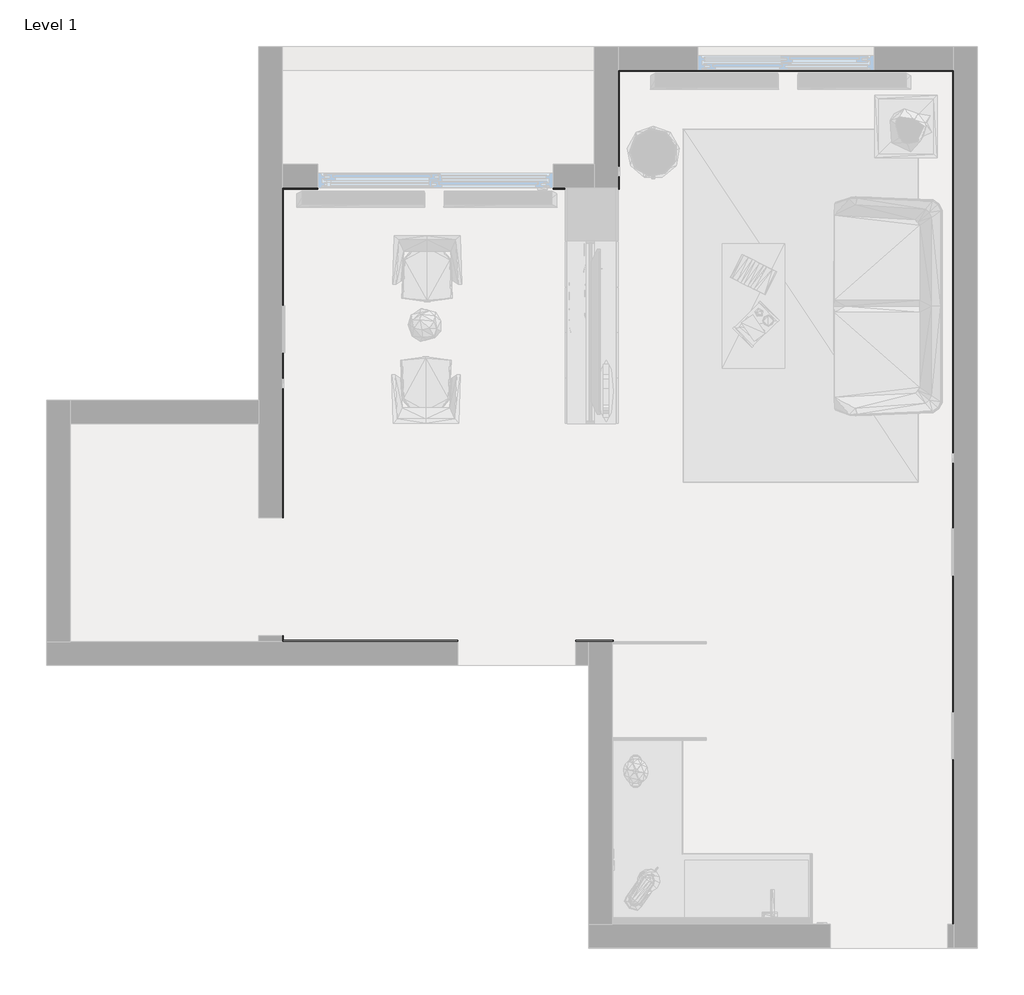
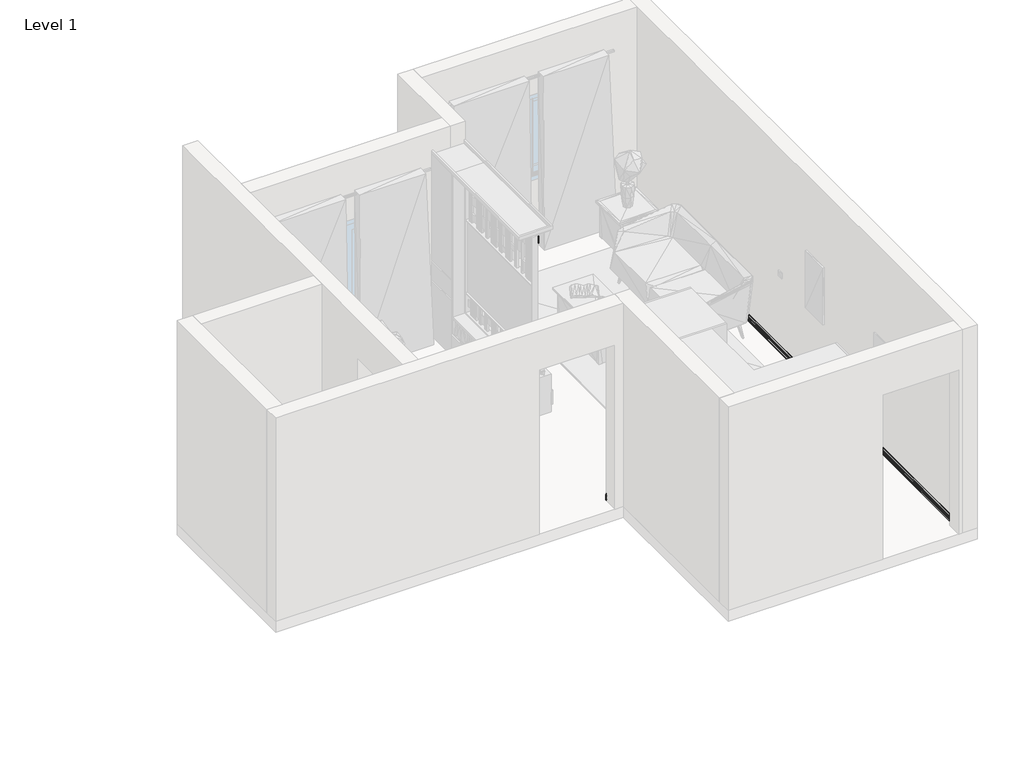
# One storey, part 3 of 4: 1 proxy.
"""IFC4 building model written with IfcOpenShell, lengths in millimetres."""

from ifc_helpers import new_model, si_unit, frame, origin, place, context, project, spatial, polyline, circle_curve, ellipse_curve, element, save
from ifc_brep_helpers import plane_surface, revolved_surface, advanced_brep

model = new_model("IFC4")

# Units and contexts
model_context = context("Model", 3, world=origin())
ifc_project = project(units=[si_unit("LENGTHUNIT", "METRE", prefix="MILLI")], contexts=[model_context])

# Site, building, storey
site = spatial("IfcSite", under=ifc_project)
building = spatial("IfcBuilding", under=site)
storey = spatial("IfcBuildingStorey", under=building, Name="Level 1", Elevation=0.0)

# Proxy
placement = place(None, origin())
element("IfcBuildingElementProxy", 1, Name="Cornice", ObjectType="Cornice", at=placement, inside=storey, context=model_context, shape_type="AdvancedBrep", body=[
    advanced_brep(
    [(-3792.1161882, -2231.0760728, 100.0), (-3792.1161882, -2231.0760728, 0.0), (-3782.1161882, -2231.0760728, 0.0), (-3782.1161882, -2231.0760728, 14.3765106), (-3782.1161882, -2231.0760728, 20.3628199), (-3782.1161882, -2231.0760728, 36.8765106), (-3782.1161882, -2231.0760728, 42.8628199), (-3782.1161882, -2231.0760728, 62.5015106), (-3782.1161882, -2231.0760728, 68.4878199), (-3782.1161882, -2231.0760728, 81.339746), (-3787.1161882, -2231.0760728, 100.0), (-3792.1161882, 568.9239272, 100.0), (-3787.1161882, 563.9239272, 100.0), (-3782.1161882, 558.9239272, 81.339746), (-3782.1161882, 558.9239272, 68.4878199), (-3782.1161882, 558.9239272, 62.5015106), (-3782.1161882, 558.9239272, 42.8628199), (-3782.1161882, 558.9239272, 36.8765106), (-3782.1161882, 558.9239272, 20.3628199), (-3782.1161882, 558.9239272, 14.3765106), (-3782.1161882, 558.9239272, 0.0), (-3792.1161882, 568.9239272, 0.0)],
    [
        (0, 1),
        (1, 2),
        (2, 3),
        (3, 4, circle_curve(frame((-3782.1161882, -2231.0760728, 17.3696652), z_axis=(0.0, 1.0, 0.0), x_axis=(1.0, 0.0, 0.0)), 2.9931546)),
        (4, 5),
        (5, 6, circle_curve(frame((-3782.1161882, -2231.0760728, 39.8696652), z_axis=(0.0, 1.0, 0.0), x_axis=(1.0, 0.0, 0.0)), 2.9931546)),
        (6, 7),
        (7, 8, circle_curve(frame((-3782.1161882, -2231.0760728, 65.4946652), z_axis=(0.0, 1.0, 0.0), x_axis=(1.0, 0.0, 0.0)), 2.9931546)),
        (8, 9),
        (9, 10),
        (10, 0),
        (11, 12),
        (12, 13),
        (13, 14),
        (14, 15, ellipse_curve(frame((-3782.1161882, 558.9239272, 65.4946652), z_axis=(-0.7071067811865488, -0.7071067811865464, 0.0), x_axis=(-0.7071067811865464, 0.7071067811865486, 0.0)), 4.2329599, 2.9931546)),
        (15, 16),
        (16, 17, ellipse_curve(frame((-3782.1161882, 558.9239272, 39.8696652), z_axis=(-0.7071067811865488, -0.7071067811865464, 0.0), x_axis=(-0.7071067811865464, 0.7071067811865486, 0.0)), 4.2329599, 2.9931546)),
        (17, 18),
        (18, 19, ellipse_curve(frame((-3782.1161882, 558.9239272, 17.3696652), z_axis=(-0.7071067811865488, -0.7071067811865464, 0.0), x_axis=(-0.7071067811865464, 0.7071067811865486, 0.0)), 4.2329599, 2.9931546)),
        (19, 20),
        (20, 21),
        (21, 11),
        (0, 11),
        (21, 1),
        (20, 2),
        (19, 3),
        (18, 4),
        (17, 5),
        (16, 6),
        (15, 7),
        (14, 8),
        (13, 9),
        (12, 10),
    ],
    [
        plane_surface(frame((-3892.2411102, -2231.0760728, 0.0), z_axis=(0.0, -1.0, 0.0), x_axis=(0.0, 0.0, 1.0))),
        plane_surface(frame((-3792.1161882, 568.9239272, 304.8), z_axis=(0.7071067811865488, 0.7071067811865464, 0.0), x_axis=(0.7071067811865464, -0.7071067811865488, 0.0))),
        plane_surface(frame((-3792.1161882, -2231.0760728, 100.0), z_axis=(-1.0, 0.0, 0.0), x_axis=(0.0, 1.0, 0.0))),
        plane_surface(frame((-3792.1161882, -2231.0760728, 0.0), z_axis=(0.0, 0.0, -1.0), x_axis=(0.0, 1.0, 0.0))),
        plane_surface(frame((-3782.1161882, -2231.0760728, 0.0), z_axis=(1.0, 0.0, 0.0), x_axis=(0.0, 1.0, 0.0))),
        revolved_surface(polyline([(-3779.1230336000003, 561.9170818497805, 17.3696652), (-3779.1230336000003, -2231.0760728, 17.3696652)]), (-3782.1161882, -2231.0760728, 17.3696652), (0.0, 1.0, 0.0)),
        plane_surface(frame((-3782.1161882, -2231.0760728, 20.3628199), z_axis=(1.0, 0.0, 0.0), x_axis=(0.0, 1.0, 0.0))),
        revolved_surface(polyline([(-3779.1230336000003, 561.9170818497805, 39.8696652), (-3779.1230336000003, -2231.0760728, 39.8696652)]), (-3782.1161882, -2231.0760728, 39.8696652), (0.0, 1.0, 0.0)),
        plane_surface(frame((-3782.1161882, -2231.0760728, 42.8628199), z_axis=(1.0, 0.0, 0.0), x_axis=(0.0, 1.0, 0.0))),
        revolved_surface(polyline([(-3779.1230336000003, 561.9170818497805, 65.4946652), (-3779.1230336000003, -2231.0760728, 65.4946652)]), (-3782.1161882, -2231.0760728, 65.4946652), (0.0, 1.0, 0.0)),
        plane_surface(frame((-3782.1161882, -2231.0760728, 68.4878199), z_axis=(1.0, 0.0, 0.0), x_axis=(0.0, 1.0, 0.0))),
        plane_surface(frame((-3782.1161882, -2231.0760728, 81.339746), z_axis=(0.9659258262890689, 0.0, 0.2588190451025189), x_axis=(0.0, 1.0, 0.0))),
        plane_surface(frame((-3787.1161882, -2231.0760728, 100.0), z_axis=(0.0, 0.0, 1.0), x_axis=(0.0, 1.0, 0.0))),
    ],
    [
        (0, [[1, 2, 3, 4, 5, 6, 7, 8, 9, 10, 11]]),
        (1, [[12, 13, 14, 15, 16, 17, 18, 19, 20, 21, 22]]),
        (2, [[-1, 23, -22, 24]]),
        (3, [[-2, -24, -21, 25]]),
        (4, [[-3, -25, -20, 26]]),
        (5, [[-4, -26, -19, 27]]),
        (6, [[-5, -27, -18, 28]]),
        (7, [[-6, -28, -17, 29]]),
        (8, [[-7, -29, -16, 30]]),
        (9, [[-8, -30, -15, 31]]),
        (10, [[-9, -31, -14, 32]]),
        (11, [[-10, -32, -13, 33]]),
        (12, [[-11, -33, -12, -23]]),
    ],
),
    advanced_brep(
    [(-3792.1161882, -3281.0760728, 100.0), (-3792.1161882, -3281.0760728, 0.0), (-3782.1161882, -3271.0760728, 0.0), (-3782.1161882, -3271.0760728, 14.3765106), (-3782.1161882, -3271.0760728, 20.3628199), (-3782.1161882, -3271.0760728, 36.8765106), (-3782.1161882, -3271.0760728, 42.8628199), (-3782.1161882, -3271.0760728, 62.5015106), (-3782.1161882, -3271.0760728, 68.4878199), (-3782.1161882, -3271.0760728, 81.339746), (-3787.1161882, -3276.0760728, 100.0), (-3792.1161882, -3231.0760728, 100.0), (-3787.1161882, -3231.0760728, 100.0), (-3782.1161882, -3231.0760728, 81.339746), (-3782.1161882, -3231.0760728, 68.4878199), (-3782.1161882, -3231.0760728, 62.5015106), (-3782.1161882, -3231.0760728, 42.8628199), (-3782.1161882, -3231.0760728, 36.8765106), (-3782.1161882, -3231.0760728, 20.3628199), (-3782.1161882, -3231.0760728, 14.3765106), (-3782.1161882, -3231.0760728, 0.0), (-3792.1161882, -3231.0760728, 0.0)],
    [
        (0, 1),
        (1, 2),
        (2, 3),
        (3, 4, ellipse_curve(frame((-3782.1161882, -3271.0760728, 17.3696652), z_axis=(-0.7071067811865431, 0.707106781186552, 0.0), x_axis=(0.707106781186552, 0.7071067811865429, 0.0)), 4.2329599, 2.9931546)),
        (4, 5),
        (5, 6, ellipse_curve(frame((-3782.1161882, -3271.0760728, 39.8696652), z_axis=(-0.7071067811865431, 0.707106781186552, 0.0), x_axis=(0.707106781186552, 0.7071067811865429, 0.0)), 4.2329599, 2.9931546)),
        (6, 7),
        (7, 8, ellipse_curve(frame((-3782.1161882, -3271.0760728, 65.4946652), z_axis=(-0.7071067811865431, 0.707106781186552, 0.0), x_axis=(0.707106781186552, 0.7071067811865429, 0.0)), 4.2329599, 2.9931546)),
        (8, 9),
        (9, 10),
        (10, 0),
        (11, 12),
        (12, 13),
        (13, 14),
        (14, 15, circle_curve(frame((-3782.1161882, -3231.0760728, 65.4946652), z_axis=(0.0, -1.0, 0.0), x_axis=(1.0, 0.0, 0.0)), 2.9931546)),
        (15, 16),
        (16, 17, circle_curve(frame((-3782.1161882, -3231.0760728, 39.8696652), z_axis=(0.0, -1.0, 0.0), x_axis=(1.0, 0.0, 0.0)), 2.9931546)),
        (17, 18),
        (18, 19, circle_curve(frame((-3782.1161882, -3231.0760728, 17.3696652), z_axis=(0.0, -1.0, 0.0), x_axis=(1.0, 0.0, 0.0)), 2.9931546)),
        (19, 20),
        (20, 21),
        (21, 11),
        (0, 11),
        (21, 1),
        (20, 2),
        (19, 3),
        (18, 4),
        (17, 5),
        (16, 6),
        (15, 7),
        (14, 8),
        (13, 9),
        (12, 10),
    ],
    [
        plane_surface(frame((-3792.1161882, -3281.0760728, 304.8), z_axis=(0.7071067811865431, -0.707106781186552, 0.0), x_axis=(0.707106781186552, 0.7071067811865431, 0.0))),
        plane_surface(frame((-3892.2411102, -3231.0760728, 0.0), z_axis=(0.0, 1.0, 0.0), x_axis=(0.0, 0.0, 1.0))),
        plane_surface(frame((-3792.1161882, -3281.0760728, 100.0), z_axis=(-1.0, 0.0, 0.0), x_axis=(0.0, 1.0, 0.0))),
        plane_surface(frame((-3792.1161882, -3281.0760728, 0.0), z_axis=(0.0, 0.0, -1.0), x_axis=(0.0, 1.0, 0.0))),
        plane_surface(frame((-3782.1161882, -3271.0760728, 0.0), z_axis=(1.0, 0.0, 0.0), x_axis=(0.0, 1.0, 0.0))),
        revolved_surface(polyline([(-3779.1230336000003, -3231.0760728, 17.3696652), (-3779.1230336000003, -3274.0692274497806, 17.3696652)]), (-3782.1161882, -3281.0760728, 17.3696652), (0.0, 1.0, 0.0)),
        plane_surface(frame((-3782.1161882, -3271.0760728, 20.3628199), z_axis=(1.0, 0.0, 0.0), x_axis=(0.0, 1.0, 0.0))),
        revolved_surface(polyline([(-3779.1230336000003, -3231.0760728, 39.8696652), (-3779.1230336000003, -3274.0692274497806, 39.8696652)]), (-3782.1161882, -3281.0760728, 39.8696652), (0.0, 1.0, 0.0)),
        plane_surface(frame((-3782.1161882, -3271.0760728, 42.8628199), z_axis=(1.0, 0.0, 0.0), x_axis=(0.0, 1.0, 0.0))),
        revolved_surface(polyline([(-3779.1230336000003, -3231.0760728, 65.4946652), (-3779.1230336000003, -3274.0692274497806, 65.4946652)]), (-3782.1161882, -3281.0760728, 65.4946652), (0.0, 1.0, 0.0)),
        plane_surface(frame((-3782.1161882, -3271.0760728, 68.4878199), z_axis=(1.0, 0.0, 0.0), x_axis=(0.0, 1.0, 0.0))),
        plane_surface(frame((-3782.1161882, -3271.0760728, 81.339746), z_axis=(0.9659258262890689, 0.0, 0.2588190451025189), x_axis=(0.0, 1.0, 0.0))),
        plane_surface(frame((-3787.1161882, -3276.0760728, 100.0), z_axis=(0.0, 0.0, 1.0), x_axis=(0.0, 1.0, 0.0))),
    ],
    [
        (0, [[1, 2, 3, 4, 5, 6, 7, 8, 9, 10, 11]]),
        (1, [[12, 13, 14, 15, 16, 17, 18, 19, 20, 21, 22]]),
        (2, [[-1, 23, -22, 24]]),
        (3, [[-2, -24, -21, 25]]),
        (4, [[-3, -25, -20, 26]]),
        (5, [[-4, -26, -19, 27]]),
        (6, [[-5, -27, -18, 28]]),
        (7, [[-6, -28, -17, 29]]),
        (8, [[-7, -29, -16, 30]]),
        (9, [[-8, -30, -15, 31]]),
        (10, [[-9, -31, -14, 32]]),
        (11, [[-10, -32, -13, 33]]),
        (12, [[-11, -33, -12, -23]]),
    ],
),
    advanced_brep(
    [(-2302.1161882, -3281.0760728, 100.0), (-2302.1161882, -3281.0760728, 0.0), (-2302.1161882, -3271.0760728, 0.0), (-2302.1161882, -3271.0760728, 14.3765106), (-2302.1161882, -3271.0760728, 20.3628199), (-2302.1161882, -3271.0760728, 36.8765106), (-2302.1161882, -3271.0760728, 42.8628199), (-2302.1161882, -3271.0760728, 62.5015106), (-2302.1161882, -3271.0760728, 68.4878199), (-2302.1161882, -3271.0760728, 81.339746), (-2302.1161882, -3276.0760728, 100.0), (-3792.1161882, -3281.0760728, 100.0), (-3787.1161882, -3276.0760728, 100.0), (-3782.1161882, -3271.0760728, 81.339746), (-3782.1161882, -3271.0760728, 68.4878199), (-3782.1161882, -3271.0760728, 62.5015106), (-3782.1161882, -3271.0760728, 42.8628199), (-3782.1161882, -3271.0760728, 36.8765106), (-3782.1161882, -3271.0760728, 20.3628199), (-3782.1161882, -3271.0760728, 14.3765106), (-3782.1161882, -3271.0760728, 0.0), (-3792.1161882, -3281.0760728, 0.0)],
    [
        (0, 1),
        (1, 2),
        (2, 3),
        (3, 4, circle_curve(frame((-2302.1161882, -3271.0760728, 17.3696652), z_axis=(-1.0, 0.0, 0.0), x_axis=(0.0, 1.0, 0.0)), 2.9931546)),
        (4, 5),
        (5, 6, circle_curve(frame((-2302.1161882, -3271.0760728, 39.8696652), z_axis=(-1.0, 0.0, 0.0), x_axis=(0.0, 1.0, 0.0)), 2.9931546)),
        (6, 7),
        (7, 8, circle_curve(frame((-2302.1161882, -3271.0760728, 65.4946652), z_axis=(-1.0, 0.0, 0.0), x_axis=(0.0, 1.0, 0.0)), 2.9931546)),
        (8, 9),
        (9, 10),
        (10, 0),
        (11, 12),
        (12, 13),
        (13, 14),
        (14, 15, ellipse_curve(frame((-3782.1161882, -3271.0760728, 65.4946652), z_axis=(0.7071067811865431, -0.707106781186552, 0.0), x_axis=(-0.7071067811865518, -0.7071067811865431, 0.0)), 4.2329599, 2.9931546)),
        (15, 16),
        (16, 17, ellipse_curve(frame((-3782.1161882, -3271.0760728, 39.8696652), z_axis=(0.7071067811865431, -0.707106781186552, 0.0), x_axis=(-0.7071067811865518, -0.7071067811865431, 0.0)), 4.2329599, 2.9931546)),
        (17, 18),
        (18, 19, ellipse_curve(frame((-3782.1161882, -3271.0760728, 17.3696652), z_axis=(0.7071067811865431, -0.707106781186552, 0.0), x_axis=(-0.7071067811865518, -0.7071067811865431, 0.0)), 4.2329599, 2.9931546)),
        (19, 20),
        (20, 21),
        (21, 11),
        (0, 11),
        (21, 1),
        (20, 2),
        (19, 3),
        (18, 4),
        (17, 5),
        (16, 6),
        (15, 7),
        (14, 8),
        (13, 9),
        (12, 10),
    ],
    [
        plane_surface(frame((-2302.1161882, -3281.0760728, -100.124922), z_axis=(1.0, 0.0, 0.0), x_axis=(0.0, -1.0, 0.0))),
        plane_surface(frame((-3792.1161882, -3281.0760728, 304.8), z_axis=(-0.7071067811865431, 0.707106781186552, 0.0), x_axis=(0.707106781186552, 0.7071067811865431, 0.0))),
        plane_surface(frame((-2302.1161882, -3281.0760728, 100.0), z_axis=(0.0, -1.0, 0.0), x_axis=(-1.0, 0.0, 0.0))),
        plane_surface(frame((-2302.1161882, -3281.0760728, 0.0), z_axis=(0.0, 0.0, -1.0), x_axis=(-1.0, 0.0, 0.0))),
        plane_surface(frame((-2302.1161882, -3271.0760728, 0.0), z_axis=(0.0, 1.0, 0.0), x_axis=(-1.0, 0.0, 0.0))),
        revolved_surface(polyline([(-3785.1093428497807, -3268.0829182, 17.3696652), (-2302.1161882, -3268.0829182, 17.3696652)]), (-2302.1161882, -3271.0760728, 17.3696652), (-1.0, 0.0, 0.0)),
        plane_surface(frame((-2302.1161882, -3271.0760728, 20.3628199), z_axis=(0.0, 1.0, 0.0), x_axis=(-1.0, 0.0, 0.0))),
        revolved_surface(polyline([(-3785.1093428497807, -3268.0829182, 39.8696652), (-2302.1161882, -3268.0829182, 39.8696652)]), (-2302.1161882, -3271.0760728, 39.8696652), (-1.0, 0.0, 0.0)),
        plane_surface(frame((-2302.1161882, -3271.0760728, 42.8628199), z_axis=(0.0, 1.0, 0.0), x_axis=(-1.0, 0.0, 0.0))),
        revolved_surface(polyline([(-3785.1093428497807, -3268.0829182, 65.4946652), (-2302.1161882, -3268.0829182, 65.4946652)]), (-2302.1161882, -3271.0760728, 65.4946652), (-1.0, 0.0, 0.0)),
        plane_surface(frame((-2302.1161882, -3271.0760728, 68.4878199), z_axis=(0.0, 1.0, 0.0), x_axis=(-1.0, 0.0, 0.0))),
        plane_surface(frame((-2302.1161882, -3271.0760728, 81.339746), z_axis=(0.0, 0.9659258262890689, 0.2588190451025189), x_axis=(-1.0, 0.0, 0.0))),
        plane_surface(frame((-2302.1161882, -3276.0760728, 100.0), z_axis=(0.0, 0.0, 1.0), x_axis=(-1.0, 0.0, 0.0))),
    ],
    [
        (0, [[1, 2, 3, 4, 5, 6, 7, 8, 9, 10, 11]]),
        (1, [[12, 13, 14, 15, 16, 17, 18, 19, 20, 21, 22]]),
        (2, [[-1, 23, -22, 24]]),
        (3, [[-2, -24, -21, 25]]),
        (4, [[-3, -25, -20, 26]]),
        (5, [[-4, -26, -19, 27]]),
        (6, [[-5, -27, -18, 28]]),
        (7, [[-6, -28, -17, 29]]),
        (8, [[-7, -29, -16, 30]]),
        (9, [[-8, -30, -15, 31]]),
        (10, [[-9, -31, -14, 32]]),
        (11, [[-10, -32, -13, 33]]),
        (12, [[-11, -33, -12, -23]]),
    ],
),
    advanced_brep(
    [(-1302.1161882, -3281.0760728, 100.0), (-1302.1161882, -3276.0760728, 100.0), (-1302.1161882, -3271.0760728, 81.339746), (-1302.1161882, -3271.0760728, 68.4878199), (-1302.1161882, -3271.0760728, 62.5015106), (-1302.1161882, -3271.0760728, 42.8628199), (-1302.1161882, -3271.0760728, 36.8765106), (-1302.1161882, -3271.0760728, 20.3628199), (-1302.1161882, -3271.0760728, 14.3765106), (-1302.1161882, -3271.0760728, 0.0), (-1302.1161882, -3281.0760728, 0.0), (-992.1161882, -3281.0760728, 0.0), (-992.1161882, -3281.0760728, 100.0), (-982.1161882, -3271.0760728, 0.0), (-982.1161882, -3271.0760728, 14.3765106), (-982.1161882, -3271.0760728, 20.3628199), (-982.1161882, -3271.0760728, 36.8765106), (-982.1161882, -3271.0760728, 42.8628199), (-982.1161882, -3271.0760728, 62.5015106), (-982.1161882, -3271.0760728, 68.4878199), (-982.1161882, -3271.0760728, 81.339746), (-987.1161882, -3276.0760728, 100.0), (-982.1161882, -3281.0760728, 0.0), (-982.1161882, -3281.0760728, 14.3765106), (-982.1161882, -3281.0760728, 20.3628199), (-982.1161882, -3281.0760728, 36.8765106), (-982.1161882, -3281.0760728, 42.8628199), (-982.1161882, -3281.0760728, 62.5015106), (-982.1161882, -3281.0760728, 68.4878199), (-982.1161882, -3281.0760728, 81.339746), (-987.1161882, -3281.0760728, 100.0)],
    [
        (0, 1),
        (1, 2),
        (2, 3),
        (3, 4, circle_curve(frame((-1302.1161882, -3271.0760728, 65.4946652), z_axis=(1.0, 0.0, 0.0), x_axis=(0.0, 1.0, 0.0)), 2.9931546)),
        (4, 5),
        (5, 6, circle_curve(frame((-1302.1161882, -3271.0760728, 39.8696652), z_axis=(1.0, 0.0, 0.0), x_axis=(0.0, 1.0, 0.0)), 2.9931546)),
        (6, 7),
        (7, 8, circle_curve(frame((-1302.1161882, -3271.0760728, 17.3696652), z_axis=(1.0, 0.0, 0.0), x_axis=(0.0, 1.0, 0.0)), 2.9931546)),
        (8, 9),
        (9, 10),
        (10, 0),
        (11, 12),
        (12, 0),
        (10, 11),
        (13, 11),
        (9, 13),
        (14, 13),
        (8, 14),
        (15, 14, ellipse_curve(frame((-982.1161882, -3271.0760728, 17.3696652), z_axis=(0.7071067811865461, -0.7071067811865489, 0.0), x_axis=(-0.7071067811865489, -0.7071067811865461, 0.0)), 4.2329599, 2.9931546)),
        (7, 15),
        (16, 15),
        (6, 16),
        (17, 16, ellipse_curve(frame((-982.1161882, -3271.0760728, 39.8696652), z_axis=(0.7071067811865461, -0.7071067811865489, 0.0), x_axis=(-0.7071067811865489, -0.7071067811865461, 0.0)), 4.2329599, 2.9931546)),
        (5, 17),
        (18, 17),
        (4, 18),
        (19, 18, ellipse_curve(frame((-982.1161882, -3271.0760728, 65.4946652), z_axis=(0.7071067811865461, -0.7071067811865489, 0.0), x_axis=(-0.7071067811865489, -0.7071067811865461, 0.0)), 4.2329599, 2.9931546)),
        (3, 19),
        (20, 19),
        (2, 20),
        (21, 20),
        (1, 21),
        (12, 21),
        (11, 22),
        (22, 23),
        (23, 24, circle_curve(frame((-982.1161882, -3281.0760728, 17.3696652), z_axis=(0.0, 1.0, 0.0), x_axis=(1.0, 0.0, 0.0)), 2.9931546)),
        (24, 25),
        (25, 26, circle_curve(frame((-982.1161882, -3281.0760728, 39.8696652), z_axis=(0.0, 1.0, 0.0), x_axis=(1.0, 0.0, 0.0)), 2.9931546)),
        (26, 27),
        (27, 28, circle_curve(frame((-982.1161882, -3281.0760728, 65.4946652), z_axis=(0.0, 1.0, 0.0), x_axis=(1.0, 0.0, 0.0)), 2.9931546)),
        (28, 29),
        (29, 30),
        (30, 12),
        (13, 22),
        (14, 23),
        (15, 24),
        (16, 25),
        (17, 26),
        (18, 27),
        (19, 28),
        (20, 29),
        (21, 30),
    ],
    [
        plane_surface(frame((-1302.1161882, -3281.0760728, -100.124922), z_axis=(-1.0, 0.0, 0.0), x_axis=(0.0, -1.0, 0.0))),
        plane_surface(frame((-992.1161882, -3281.0760728, 100.0), z_axis=(0.0, -1.0, 0.0), x_axis=(-1.0, 0.0, 0.0))),
        plane_surface(frame((-992.1161882, -3281.0760728, 0.0), z_axis=(0.0, 0.0, -1.0), x_axis=(-1.0, 0.0, 0.0))),
        plane_surface(frame((-982.1161882, -3271.0760728, 0.0), z_axis=(0.0, 1.0, 0.0), x_axis=(-1.0, 0.0, 0.0))),
        revolved_surface(polyline([(-1302.1161882, -3268.0829182, 17.3696652), (-979.1230335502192, -3268.0829182, 17.3696652)]), (-992.1161882, -3271.0760728, 17.3696652), (-1.0, 0.0, 0.0)),
        plane_surface(frame((-982.1161882, -3271.0760728, 20.3628199), z_axis=(0.0, 1.0, 0.0), x_axis=(-1.0, 0.0, 0.0))),
        revolved_surface(polyline([(-1302.1161882, -3268.0829182, 39.8696652), (-979.1230335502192, -3268.0829182, 39.8696652)]), (-992.1161882, -3271.0760728, 39.8696652), (-1.0, 0.0, 0.0)),
        plane_surface(frame((-982.1161882, -3271.0760728, 42.8628199), z_axis=(0.0, 1.0, 0.0), x_axis=(-1.0, 0.0, 0.0))),
        revolved_surface(polyline([(-1302.1161882, -3268.0829182, 65.4946652), (-979.1230335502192, -3268.0829182, 65.4946652)]), (-992.1161882, -3271.0760728, 65.4946652), (-1.0, 0.0, 0.0)),
        plane_surface(frame((-982.1161882, -3271.0760728, 68.4878199), z_axis=(0.0, 1.0, 0.0), x_axis=(-1.0, 0.0, 0.0))),
        plane_surface(frame((-982.1161882, -3271.0760728, 81.339746), z_axis=(0.0, 0.9659258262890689, 0.2588190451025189), x_axis=(-1.0, 0.0, 0.0))),
        plane_surface(frame((-987.1161882, -3276.0760728, 100.0), z_axis=(0.0, 0.0, 1.0), x_axis=(-1.0, 0.0, 0.0))),
        plane_surface(frame((-492.1161882, -3281.0760728, 0.0), z_axis=(0.0, -1.0, 0.0), x_axis=(-1.0, 0.0, 0.0))),
        plane_surface(frame((-992.1161882, -3281.0760728, 0.0), z_axis=(0.0, 0.0, -1.0), x_axis=(0.0, 1.0, 0.0))),
        plane_surface(frame((-982.1161882, -3281.0760728, 0.0), z_axis=(1.0, 0.0, 0.0), x_axis=(0.0, 1.0, 0.0))),
        revolved_surface(polyline([(-979.1230336, -3268.0829181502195, 17.3696652), (-979.1230336, -3281.0760728, 17.3696652)]), (-982.1161882, -3281.0760728, 17.3696652), (0.0, 1.0, 0.0)),
        plane_surface(frame((-982.1161882, -3281.0760728, 20.3628199), z_axis=(1.0, 0.0, 0.0), x_axis=(0.0, 1.0, 0.0))),
        revolved_surface(polyline([(-979.1230336, -3268.0829181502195, 39.8696652), (-979.1230336, -3281.0760728, 39.8696652)]), (-982.1161882, -3281.0760728, 39.8696652), (0.0, 1.0, 0.0)),
        plane_surface(frame((-982.1161882, -3281.0760728, 42.8628199), z_axis=(1.0, 0.0, 0.0), x_axis=(0.0, 1.0, 0.0))),
        revolved_surface(polyline([(-979.1230336, -3268.0829181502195, 65.4946652), (-979.1230336, -3281.0760728, 65.4946652)]), (-982.1161882, -3281.0760728, 65.4946652), (0.0, 1.0, 0.0)),
        plane_surface(frame((-982.1161882, -3281.0760728, 68.4878199), z_axis=(1.0, 0.0, 0.0), x_axis=(0.0, 1.0, 0.0))),
        plane_surface(frame((-982.1161882, -3281.0760728, 81.339746), z_axis=(0.9659258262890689, 0.0, 0.2588190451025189), x_axis=(0.0, 1.0, 0.0))),
        plane_surface(frame((-987.1161882, -3281.0760728, 100.0), z_axis=(0.0, 0.0, 1.0), x_axis=(0.0, 1.0, 0.0))),
    ],
    [
        (0, [[1, 2, 3, 4, 5, 6, 7, 8, 9, 10, 11]]),
        (1, [[12, 13, -11, 14]]),
        (2, [[15, -14, -10, 16]]),
        (3, [[17, -16, -9, 18]]),
        (4, [[19, -18, -8, 20]]),
        (5, [[21, -20, -7, 22]]),
        (6, [[23, -22, -6, 24]]),
        (7, [[25, -24, -5, 26]]),
        (8, [[27, -26, -4, 28]]),
        (9, [[29, -28, -3, 30]]),
        (10, [[31, -30, -2, 32]]),
        (11, [[33, -32, -1, -13]]),
        (12, [[34, 35, 36, 37, 38, 39, 40, 41, 42, 43, -12]]),
        (13, [[-34, -15, 44]]),
        (14, [[-35, -44, -17, 45]]),
        (15, [[-36, -45, -19, 46]]),
        (16, [[-37, -46, -21, 47]]),
        (17, [[-38, -47, -23, 48]]),
        (18, [[-39, -48, -25, 49]]),
        (19, [[-40, -49, -27, 50]]),
        (20, [[-41, -50, -29, 51]]),
        (21, [[-42, -51, -31, 52]]),
        (22, [[-43, -52, -33]]),
    ],
),
    advanced_brep(
    [(1907.8838118, 1568.9239272, 100.0), (1907.8838118, 1568.9239272, 0.0), (1897.8838118, 1558.9239272, 0.0), (1897.8838118, 1558.9239272, 14.3765106), (1897.8838118, 1558.9239272, 20.3628199), (1897.8838118, 1558.9239272, 36.8765106), (1897.8838118, 1558.9239272, 42.8628199), (1897.8838118, 1558.9239272, 62.5015106), (1897.8838118, 1558.9239272, 68.4878199), (1897.8838118, 1558.9239272, 81.339746), (1902.8838118, 1563.9239272, 100.0), (1907.8838118, -5681.0760728, 100.0), (1902.8838118, -5681.0760728, 100.0), (1897.8838118, -5681.0760728, 81.339746), (1897.8838118, -5681.0760728, 68.4878199), (1897.8838118, -5681.0760728, 62.5015106), (1897.8838118, -5681.0760728, 42.8628199), (1897.8838118, -5681.0760728, 36.8765106), (1897.8838118, -5681.0760728, 20.3628199), (1897.8838118, -5681.0760728, 14.3765106), (1897.8838118, -5681.0760728, 0.0), (1907.8838118, -5681.0760728, 0.0)],
    [
        (0, 1),
        (1, 2),
        (2, 3),
        (3, 4, ellipse_curve(frame((1897.8838118, 1558.9239272, 17.3696652), z_axis=(0.7071067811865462, -0.7071067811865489, 0.0), x_axis=(-0.707106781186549, -0.707106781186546, 0.0)), 4.2329599, 2.9931546)),
        (4, 5),
        (5, 6, ellipse_curve(frame((1897.8838118, 1558.9239272, 39.8696652), z_axis=(0.7071067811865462, -0.7071067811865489, 0.0), x_axis=(-0.707106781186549, -0.707106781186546, 0.0)), 4.2329599, 2.9931546)),
        (6, 7),
        (7, 8, ellipse_curve(frame((1897.8838118, 1558.9239272, 65.4946652), z_axis=(0.7071067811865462, -0.7071067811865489, 0.0), x_axis=(-0.707106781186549, -0.707106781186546, 0.0)), 4.2329599, 2.9931546)),
        (8, 9),
        (9, 10),
        (10, 0),
        (11, 12),
        (12, 13),
        (13, 14),
        (14, 15, circle_curve(frame((1897.8838118, -5681.0760728, 65.4946652), z_axis=(0.0, 1.0, 0.0), x_axis=(-1.0, 0.0, 0.0)), 2.9931546)),
        (15, 16),
        (16, 17, circle_curve(frame((1897.8838118, -5681.0760728, 39.8696652), z_axis=(0.0, 1.0, 0.0), x_axis=(-1.0, 0.0, 0.0)), 2.9931546)),
        (17, 18),
        (18, 19, circle_curve(frame((1897.8838118, -5681.0760728, 17.3696652), z_axis=(0.0, 1.0, 0.0), x_axis=(-1.0, 0.0, 0.0)), 2.9931546)),
        (19, 20),
        (20, 21),
        (21, 11),
        (0, 11),
        (21, 1),
        (20, 2),
        (19, 3),
        (18, 4),
        (17, 5),
        (16, 6),
        (15, 7),
        (14, 8),
        (13, 9),
        (12, 10),
    ],
    [
        plane_surface(frame((1907.8838118, 1568.9239272, 304.8), z_axis=(-0.7071067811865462, 0.7071067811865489, 0.0), x_axis=(-0.7071067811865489, -0.7071067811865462, 0.0))),
        plane_surface(frame((1807.7588898, -5681.0760728, 0.0), z_axis=(0.0, -1.0, 0.0), x_axis=(0.0, 0.0, -1.0))),
        plane_surface(frame((1907.8838118, 1568.9239272, 100.0), z_axis=(1.0, 0.0, 0.0), x_axis=(0.0, -1.0, 0.0))),
        plane_surface(frame((1907.8838118, 1568.9239272, 0.0), z_axis=(0.0, 0.0, -1.0), x_axis=(0.0, -1.0, 0.0))),
        plane_surface(frame((1897.8838118, 1558.9239272, 0.0), z_axis=(-1.0, 0.0, 0.0), x_axis=(0.0, -1.0, 0.0))),
        revolved_surface(polyline([(1894.8906572, -5681.0760728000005, 17.3696652), (1894.8906572, 1561.9170818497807, 17.3696652)]), (1897.8838118, 1568.9239272, 17.3696652), (0.0, -1.0, 0.0)),
        plane_surface(frame((1897.8838118, 1558.9239272, 20.3628199), z_axis=(-1.0, 0.0, 0.0), x_axis=(0.0, -1.0, 0.0))),
        revolved_surface(polyline([(1894.8906572, -5681.0760728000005, 39.8696652), (1894.8906572, 1561.9170818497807, 39.8696652)]), (1897.8838118, 1568.9239272, 39.8696652), (0.0, -1.0, 0.0)),
        plane_surface(frame((1897.8838118, 1558.9239272, 42.8628199), z_axis=(-1.0, 0.0, 0.0), x_axis=(0.0, -1.0, 0.0))),
        revolved_surface(polyline([(1894.8906572, -5681.0760728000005, 65.4946652), (1894.8906572, 1561.9170818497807, 65.4946652)]), (1897.8838118, 1568.9239272, 65.4946652), (0.0, -1.0, 0.0)),
        plane_surface(frame((1897.8838118, 1558.9239272, 68.4878199), z_axis=(-1.0, 0.0, 0.0), x_axis=(0.0, -1.0, 0.0))),
        plane_surface(frame((1897.8838118, 1558.9239272, 81.339746), z_axis=(-0.9659258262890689, 0.0, 0.2588190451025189), x_axis=(0.0, -1.0, 0.0))),
        plane_surface(frame((1902.8838118, 1563.9239272, 100.0), z_axis=(0.0, 0.0, 1.0), x_axis=(0.0, -1.0, 0.0))),
    ],
    [
        (0, [[1, 2, 3, 4, 5, 6, 7, 8, 9, 10, 11]]),
        (1, [[12, 13, 14, 15, 16, 17, 18, 19, 20, 21, 22]]),
        (2, [[-1, 23, -22, 24]]),
        (3, [[-2, -24, -21, 25]]),
        (4, [[-3, -25, -20, 26]]),
        (5, [[-4, -26, -19, 27]]),
        (6, [[-5, -27, -18, 28]]),
        (7, [[-6, -28, -17, 29]]),
        (8, [[-7, -29, -16, 30]]),
        (9, [[-8, -30, -15, 31]]),
        (10, [[-9, -31, -14, 32]]),
        (11, [[-10, -32, -13, 33]]),
        (12, [[-11, -33, -12, -23]]),
    ],
),
    advanced_brep(
    [(-942.1161882, 1568.9239272, 100.0), (-942.1161882, 1568.9239272, 0.0), (-932.1161882, 1558.9239272, 0.0), (-932.1161882, 1558.9239272, 14.3765106), (-932.1161882, 1558.9239272, 20.3628199), (-932.1161882, 1558.9239272, 36.8765106), (-932.1161882, 1558.9239272, 42.8628199), (-932.1161882, 1558.9239272, 62.5015106), (-932.1161882, 1558.9239272, 68.4878199), (-932.1161882, 1558.9239272, 81.339746), (-937.1161882, 1563.9239272, 100.0), (1907.8838118, 1568.9239272, 100.0), (1902.8838118, 1563.9239272, 100.0), (1897.8838118, 1558.9239272, 81.339746), (1897.8838118, 1558.9239272, 68.4878199), (1897.8838118, 1558.9239272, 62.5015106), (1897.8838118, 1558.9239272, 42.8628199), (1897.8838118, 1558.9239272, 36.8765106), (1897.8838118, 1558.9239272, 20.3628199), (1897.8838118, 1558.9239272, 14.3765106), (1897.8838118, 1558.9239272, 0.0), (1907.8838118, 1568.9239272, 0.0)],
    [
        (0, 1),
        (1, 2),
        (2, 3),
        (3, 4, ellipse_curve(frame((-932.1161882, 1558.9239272, 17.3696652), z_axis=(0.7071067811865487, 0.7071067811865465, 0.0), x_axis=(0.7071067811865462, -0.7071067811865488, 0.0)), 4.2329599, 2.9931546)),
        (4, 5),
        (5, 6, ellipse_curve(frame((-932.1161882, 1558.9239272, 39.8696652), z_axis=(0.7071067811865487, 0.7071067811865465, 0.0), x_axis=(0.7071067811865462, -0.7071067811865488, 0.0)), 4.2329599, 2.9931546)),
        (6, 7),
        (7, 8, ellipse_curve(frame((-932.1161882, 1558.9239272, 65.4946652), z_axis=(0.7071067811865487, 0.7071067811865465, 0.0), x_axis=(0.7071067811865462, -0.7071067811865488, 0.0)), 4.2329599, 2.9931546)),
        (8, 9),
        (9, 10),
        (10, 0),
        (11, 12),
        (12, 13),
        (13, 14),
        (14, 15, ellipse_curve(frame((1897.8838118, 1558.9239272, 65.4946652), z_axis=(-0.7071067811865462, 0.7071067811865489, 0.0), x_axis=(0.7071067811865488, 0.7071067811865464, 0.0)), 4.2329599, 2.9931546)),
        (15, 16),
        (16, 17, ellipse_curve(frame((1897.8838118, 1558.9239272, 39.8696652), z_axis=(-0.7071067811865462, 0.7071067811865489, 0.0), x_axis=(0.7071067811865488, 0.7071067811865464, 0.0)), 4.2329599, 2.9931546)),
        (17, 18),
        (18, 19, ellipse_curve(frame((1897.8838118, 1558.9239272, 17.3696652), z_axis=(-0.7071067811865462, 0.7071067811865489, 0.0), x_axis=(0.7071067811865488, 0.7071067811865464, 0.0)), 4.2329599, 2.9931546)),
        (19, 20),
        (20, 21),
        (21, 11),
        (0, 11),
        (21, 1),
        (20, 2),
        (19, 3),
        (18, 4),
        (17, 5),
        (16, 6),
        (15, 7),
        (14, 8),
        (13, 9),
        (12, 10),
    ],
    [
        plane_surface(frame((-942.1161882, 1568.9239272, 304.8), z_axis=(-0.7071067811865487, -0.7071067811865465, 0.0), x_axis=(0.7071067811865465, -0.7071067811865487, 0.0))),
        plane_surface(frame((1907.8838118, 1568.9239272, 304.8), z_axis=(0.7071067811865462, -0.7071067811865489, 0.0), x_axis=(-0.7071067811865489, -0.7071067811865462, 0.0))),
        plane_surface(frame((-942.1161882, 1568.9239272, 100.0), z_axis=(0.0, 1.0, 0.0), x_axis=(1.0, 0.0, 0.0))),
        plane_surface(frame((-942.1161882, 1568.9239272, 0.0), z_axis=(0.0, 0.0, -1.0), x_axis=(1.0, 0.0, 0.0))),
        plane_surface(frame((-932.1161882, 1558.9239272, 0.0), z_axis=(0.0, -1.0, 0.0), x_axis=(1.0, 0.0, 0.0))),
        revolved_surface(polyline([(1900.8769664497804, 1555.9307726, 17.3696652), (-935.1093428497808, 1555.9307726, 17.3696652)]), (-942.1161882, 1558.9239272, 17.3696652), (1.0, 0.0, 0.0)),
        plane_surface(frame((-932.1161882, 1558.9239272, 20.3628199), z_axis=(0.0, -1.0, 0.0), x_axis=(1.0, 0.0, 0.0))),
        revolved_surface(polyline([(1900.8769664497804, 1555.9307726, 39.8696652), (-935.1093428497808, 1555.9307726, 39.8696652)]), (-942.1161882, 1558.9239272, 39.8696652), (1.0, 0.0, 0.0)),
        plane_surface(frame((-932.1161882, 1558.9239272, 42.8628199), z_axis=(0.0, -1.0, 0.0), x_axis=(1.0, 0.0, 0.0))),
        revolved_surface(polyline([(1900.8769664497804, 1555.9307726, 65.4946652), (-935.1093428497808, 1555.9307726, 65.4946652)]), (-942.1161882, 1558.9239272, 65.4946652), (1.0, 0.0, 0.0)),
        plane_surface(frame((-932.1161882, 1558.9239272, 68.4878199), z_axis=(0.0, -1.0, 0.0), x_axis=(1.0, 0.0, 0.0))),
        plane_surface(frame((-932.1161882, 1558.9239272, 81.339746), z_axis=(0.0, -0.9659258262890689, 0.2588190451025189), x_axis=(1.0, 0.0, 0.0))),
        plane_surface(frame((-937.1161882, 1563.9239272, 100.0), z_axis=(0.0, 0.0, 1.0), x_axis=(1.0, 0.0, 0.0))),
    ],
    [
        (0, [[1, 2, 3, 4, 5, 6, 7, 8, 9, 10, 11]]),
        (1, [[12, 13, 14, 15, 16, 17, 18, 19, 20, 21, 22]]),
        (2, [[-1, 23, -22, 24]]),
        (3, [[-2, -24, -21, 25]]),
        (4, [[-3, -25, -20, 26]]),
        (5, [[-4, -26, -19, 27]]),
        (6, [[-5, -27, -18, 28]]),
        (7, [[-6, -28, -17, 29]]),
        (8, [[-7, -29, -16, 30]]),
        (9, [[-8, -30, -15, 31]]),
        (10, [[-9, -31, -14, 32]]),
        (11, [[-10, -32, -13, 33]]),
        (12, [[-11, -33, -12, -23]]),
    ],
),
    advanced_brep(
    [(-942.1161882, 1568.9239272, 100.0), (-937.1161882, 1563.9239272, 100.0), (-932.1161882, 1558.9239272, 81.339746), (-932.1161882, 1558.9239272, 68.4878199), (-932.1161882, 1558.9239272, 62.5015106), (-932.1161882, 1558.9239272, 42.8628199), (-932.1161882, 1558.9239272, 36.8765106), (-932.1161882, 1558.9239272, 20.3628199), (-932.1161882, 1558.9239272, 14.3765106), (-932.1161882, 1558.9239272, 0.0), (-942.1161882, 1568.9239272, 0.0), (-942.1161882, 568.9239272, 100.0), (-942.1161882, 568.9239272, 0.0), (-932.1161882, 558.9239272, 0.0), (-932.1161882, 558.9239272, 14.3765106), (-932.1161882, 558.9239272, 20.3628199), (-932.1161882, 558.9239272, 36.8765106), (-932.1161882, 558.9239272, 42.8628199), (-932.1161882, 558.9239272, 62.5015106), (-932.1161882, 558.9239272, 68.4878199), (-932.1161882, 558.9239272, 81.339746), (-937.1161882, 563.9239272, 100.0)],
    [
        (0, 1),
        (1, 2),
        (2, 3),
        (3, 4, ellipse_curve(frame((-932.1161882, 1558.9239272, 65.4946652), z_axis=(-0.7071067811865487, -0.7071067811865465, 0.0), x_axis=(0.7071067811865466, -0.7071067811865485, 0.0)), 4.2329599, 2.9931546)),
        (4, 5),
        (5, 6, ellipse_curve(frame((-932.1161882, 1558.9239272, 39.8696652), z_axis=(-0.7071067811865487, -0.7071067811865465, 0.0), x_axis=(0.7071067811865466, -0.7071067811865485, 0.0)), 4.2329599, 2.9931546)),
        (6, 7),
        (7, 8, ellipse_curve(frame((-932.1161882, 1558.9239272, 17.3696652), z_axis=(-0.7071067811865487, -0.7071067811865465, 0.0), x_axis=(0.7071067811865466, -0.7071067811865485, 0.0)), 4.2329599, 2.9931546)),
        (8, 9),
        (9, 10),
        (10, 0),
        (11, 12),
        (12, 13),
        (13, 14),
        (14, 15, ellipse_curve(frame((-932.1161882, 558.9239272, 17.3696652), z_axis=(0.7071067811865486, 0.7071067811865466, 0.0), x_axis=(0.7071067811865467, -0.7071067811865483, 0.0)), 4.2329599, 2.9931546)),
        (15, 16),
        (16, 17, ellipse_curve(frame((-932.1161882, 558.9239272, 39.8696652), z_axis=(0.7071067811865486, 0.7071067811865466, 0.0), x_axis=(0.7071067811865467, -0.7071067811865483, 0.0)), 4.2329599, 2.9931546)),
        (17, 18),
        (18, 19, ellipse_curve(frame((-932.1161882, 558.9239272, 65.4946652), z_axis=(0.7071067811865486, 0.7071067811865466, 0.0), x_axis=(0.7071067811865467, -0.7071067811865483, 0.0)), 4.2329599, 2.9931546)),
        (19, 20),
        (20, 21),
        (21, 11),
        (10, 12),
        (11, 0),
        (21, 1),
        (20, 2),
        (19, 3),
        (18, 4),
        (17, 5),
        (16, 6),
        (15, 7),
        (14, 8),
        (13, 9),
    ],
    [
        plane_surface(frame((-942.1161882, 1568.9239272, -304.8), z_axis=(0.7071067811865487, 0.7071067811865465, 0.0), x_axis=(0.7071067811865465, -0.7071067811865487, 0.0))),
        plane_surface(frame((-942.1161882, 568.9239272, 304.8), z_axis=(-0.7071067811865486, -0.7071067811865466, 0.0), x_axis=(-0.7071067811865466, 0.7071067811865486, 0.0))),
        plane_surface(frame((-942.1161882, 1568.9239272, 0.0), z_axis=(-1.0, 0.0, 0.0), x_axis=(0.0, -1.0, 0.0))),
        plane_surface(frame((-942.1161882, 1568.9239272, 100.0), z_axis=(0.0, 0.0, 1.0), x_axis=(0.0, -1.0, 0.0))),
        plane_surface(frame((-937.1161882, 1563.9239272, 100.0), z_axis=(0.9659258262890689, 0.0, 0.2588190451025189), x_axis=(0.0, -1.0, 0.0))),
        plane_surface(frame((-932.1161882, 1558.9239272, 81.339746), z_axis=(1.0, 0.0, 0.0), x_axis=(0.0, -1.0, 0.0))),
        revolved_surface(polyline([(-929.1230336, 555.9307725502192, 65.4946652), (-929.1230336, 1561.9170818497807, 65.4946652)]), (-932.1161882, 1568.9239272, 65.4946652), (0.0, -1.0, 0.0)),
        plane_surface(frame((-932.1161882, 1558.9239272, 62.5015106), z_axis=(1.0, 0.0, 0.0), x_axis=(0.0, -1.0, 0.0))),
        revolved_surface(polyline([(-929.1230336, 555.9307725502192, 39.8696652), (-929.1230336, 1561.9170818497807, 39.8696652)]), (-932.1161882, 1568.9239272, 39.8696652), (0.0, -1.0, 0.0)),
        plane_surface(frame((-932.1161882, 1558.9239272, 36.8765106), z_axis=(1.0, 0.0, 0.0), x_axis=(0.0, -1.0, 0.0))),
        revolved_surface(polyline([(-929.1230336, 555.9307725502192, 17.3696652), (-929.1230336, 1561.9170818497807, 17.3696652)]), (-932.1161882, 1568.9239272, 17.3696652), (0.0, -1.0, 0.0)),
        plane_surface(frame((-932.1161882, 1558.9239272, 14.3765106), z_axis=(1.0, 0.0, 0.0), x_axis=(0.0, -1.0, 0.0))),
        plane_surface(frame((-932.1161882, 1558.9239272, 0.0), z_axis=(0.0, 0.0, -1.0), x_axis=(0.0, -1.0, 0.0))),
    ],
    [
        (0, [[1, 2, 3, 4, 5, 6, 7, 8, 9, 10, 11]]),
        (1, [[12, 13, 14, 15, 16, 17, 18, 19, 20, 21, 22]]),
        (2, [[-11, 23, -12, 24]]),
        (3, [[-1, -24, -22, 25]]),
        (4, [[-2, -25, -21, 26]]),
        (5, [[-3, -26, -20, 27]]),
        (6, [[-4, -27, -19, 28]]),
        (7, [[-5, -28, -18, 29]]),
        (8, [[-6, -29, -17, 30]]),
        (9, [[-7, -30, -16, 31]]),
        (10, [[-8, -31, -15, 32]]),
        (11, [[-9, -32, -14, 33]]),
        (12, [[-10, -33, -13, -23]]),
    ],
),
    advanced_brep(
    [(-1492.1161882, 568.9239272, 100.0), (-1492.1161882, 568.9239272, 0.0), (-1492.1161882, 558.9239272, 0.0), (-1492.1161882, 558.9239272, 14.3765106), (-1492.1161882, 558.9239272, 20.3628199), (-1492.1161882, 558.9239272, 36.8765106), (-1492.1161882, 558.9239272, 42.8628199), (-1492.1161882, 558.9239272, 62.5015106), (-1492.1161882, 558.9239272, 68.4878199), (-1492.1161882, 558.9239272, 81.339746), (-1492.1161882, 563.9239272, 100.0), (-942.1161882, 568.9239272, 100.0), (-937.1161882, 563.9239272, 100.0), (-932.1161882, 558.9239272, 81.339746), (-932.1161882, 558.9239272, 68.4878199), (-932.1161882, 558.9239272, 62.5015106), (-932.1161882, 558.9239272, 42.8628199), (-932.1161882, 558.9239272, 36.8765106), (-932.1161882, 558.9239272, 20.3628199), (-932.1161882, 558.9239272, 14.3765106), (-932.1161882, 558.9239272, 0.0), (-942.1161882, 568.9239272, 0.0)],
    [
        (0, 1),
        (1, 2),
        (2, 3),
        (3, 4, circle_curve(frame((-1492.1161882, 558.9239272, 17.3696652), z_axis=(1.0, 0.0, 0.0), x_axis=(0.0, -1.0, 0.0)), 2.9931546)),
        (4, 5),
        (5, 6, circle_curve(frame((-1492.1161882, 558.9239272, 39.8696652), z_axis=(1.0, 0.0, 0.0), x_axis=(0.0, -1.0, 0.0)), 2.9931546)),
        (6, 7),
        (7, 8, circle_curve(frame((-1492.1161882, 558.9239272, 65.4946652), z_axis=(1.0, 0.0, 0.0), x_axis=(0.0, -1.0, 0.0)), 2.9931546)),
        (8, 9),
        (9, 10),
        (10, 0),
        (11, 12),
        (12, 13),
        (13, 14),
        (14, 15, ellipse_curve(frame((-932.1161882, 558.9239272, 65.4946652), z_axis=(-0.7071067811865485, -0.7071067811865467, 0.0), x_axis=(0.7071067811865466, -0.7071067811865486, 0.0)), 4.2329599, 2.9931546)),
        (15, 16),
        (16, 17, ellipse_curve(frame((-932.1161882, 558.9239272, 39.8696652), z_axis=(-0.7071067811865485, -0.7071067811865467, 0.0), x_axis=(0.7071067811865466, -0.7071067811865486, 0.0)), 4.2329599, 2.9931546)),
        (17, 18),
        (18, 19, ellipse_curve(frame((-932.1161882, 558.9239272, 17.3696652), z_axis=(-0.7071067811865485, -0.7071067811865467, 0.0), x_axis=(0.7071067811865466, -0.7071067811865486, 0.0)), 4.2329599, 2.9931546)),
        (19, 20),
        (20, 21),
        (21, 11),
        (0, 11),
        (21, 1),
        (20, 2),
        (19, 3),
        (18, 4),
        (17, 5),
        (16, 6),
        (15, 7),
        (14, 8),
        (13, 9),
        (12, 10),
    ],
    [
        plane_surface(frame((-1492.1161882, 568.9239272, -100.124922), z_axis=(-1.0, 0.0, 0.0), x_axis=(0.0, 1.0, 0.0))),
        plane_surface(frame((-942.1161882, 568.9239272, -304.8), z_axis=(0.7071067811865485, 0.7071067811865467, 0.0), x_axis=(-0.7071067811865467, 0.7071067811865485, 0.0))),
        plane_surface(frame((-1492.1161882, 568.9239272, 100.0), z_axis=(0.0, 1.0, 0.0), x_axis=(1.0, 0.0, 0.0))),
        plane_surface(frame((-1492.1161882, 568.9239272, 0.0), z_axis=(0.0, 0.0, -1.0), x_axis=(1.0, 0.0, 0.0))),
        plane_surface(frame((-1492.1161882, 558.9239272, 0.0), z_axis=(0.0, -1.0, 0.0), x_axis=(1.0, 0.0, 0.0))),
        revolved_surface(polyline([(-929.1230335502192, 555.9307726, 17.3696652), (-1492.1161882, 555.9307726, 17.3696652)]), (-1492.1161882, 558.9239272, 17.3696652), (1.0, 0.0, 0.0)),
        plane_surface(frame((-1492.1161882, 558.9239272, 20.3628199), z_axis=(0.0, -1.0, 0.0), x_axis=(1.0, 0.0, 0.0))),
        revolved_surface(polyline([(-929.1230335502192, 555.9307726, 39.8696652), (-1492.1161882, 555.9307726, 39.8696652)]), (-1492.1161882, 558.9239272, 39.8696652), (1.0, 0.0, 0.0)),
        plane_surface(frame((-1492.1161882, 558.9239272, 42.8628199), z_axis=(0.0, -1.0, 0.0), x_axis=(1.0, 0.0, 0.0))),
        revolved_surface(polyline([(-929.1230335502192, 555.9307726, 65.4946652), (-1492.1161882, 555.9307726, 65.4946652)]), (-1492.1161882, 558.9239272, 65.4946652), (1.0, 0.0, 0.0)),
        plane_surface(frame((-1492.1161882, 558.9239272, 68.4878199), z_axis=(0.0, -1.0, 0.0), x_axis=(1.0, 0.0, 0.0))),
        plane_surface(frame((-1492.1161882, 558.9239272, 81.339746), z_axis=(0.0, -0.9659258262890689, 0.2588190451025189), x_axis=(1.0, 0.0, 0.0))),
        plane_surface(frame((-1492.1161882, 563.9239272, 100.0), z_axis=(0.0, 0.0, 1.0), x_axis=(1.0, 0.0, 0.0))),
    ],
    [
        (0, [[1, 2, 3, 4, 5, 6, 7, 8, 9, 10, 11]]),
        (1, [[12, 13, 14, 15, 16, 17, 18, 19, 20, 21, 22]]),
        (2, [[-1, 23, -22, 24]]),
        (3, [[-2, -24, -21, 25]]),
        (4, [[-3, -25, -20, 26]]),
        (5, [[-4, -26, -19, 27]]),
        (6, [[-5, -27, -18, 28]]),
        (7, [[-6, -28, -17, 29]]),
        (8, [[-7, -29, -16, 30]]),
        (9, [[-8, -30, -15, 31]]),
        (10, [[-9, -31, -14, 32]]),
        (11, [[-10, -32, -13, 33]]),
        (12, [[-11, -33, -12, -23]]),
    ],
),
    advanced_brep(
    [(-3792.1161882, 568.9239272, 100.0), (-3792.1161882, 568.9239272, 0.0), (-3782.1161882, 558.9239272, 0.0), (-3782.1161882, 558.9239272, 14.3765106), (-3782.1161882, 558.9239272, 20.3628199), (-3782.1161882, 558.9239272, 36.8765106), (-3782.1161882, 558.9239272, 42.8628199), (-3782.1161882, 558.9239272, 62.5015106), (-3782.1161882, 558.9239272, 68.4878199), (-3782.1161882, 558.9239272, 81.339746), (-3787.1161882, 563.9239272, 100.0), (-3492.1161882, 568.9239272, 100.0), (-3492.1161882, 563.9239272, 100.0), (-3492.1161882, 558.9239272, 81.339746), (-3492.1161882, 558.9239272, 68.4878199), (-3492.1161882, 558.9239272, 62.5015106), (-3492.1161882, 558.9239272, 42.8628199), (-3492.1161882, 558.9239272, 36.8765106), (-3492.1161882, 558.9239272, 20.3628199), (-3492.1161882, 558.9239272, 14.3765106), (-3492.1161882, 558.9239272, 0.0), (-3492.1161882, 568.9239272, 0.0)],
    [
        (0, 1),
        (1, 2),
        (2, 3),
        (3, 4, ellipse_curve(frame((-3782.1161882, 558.9239272, 17.3696652), z_axis=(0.7071067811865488, 0.7071067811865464, 0.0), x_axis=(0.707106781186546, -0.7071067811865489, 0.0)), 4.2329599, 2.9931546)),
        (4, 5),
        (5, 6, ellipse_curve(frame((-3782.1161882, 558.9239272, 39.8696652), z_axis=(0.7071067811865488, 0.7071067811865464, 0.0), x_axis=(0.707106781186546, -0.7071067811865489, 0.0)), 4.2329599, 2.9931546)),
        (6, 7),
        (7, 8, ellipse_curve(frame((-3782.1161882, 558.9239272, 65.4946652), z_axis=(0.7071067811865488, 0.7071067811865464, 0.0), x_axis=(0.707106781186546, -0.7071067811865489, 0.0)), 4.2329599, 2.9931546)),
        (8, 9),
        (9, 10),
        (10, 0),
        (11, 12),
        (12, 13),
        (13, 14),
        (14, 15, circle_curve(frame((-3492.1161882, 558.9239272, 65.4946652), z_axis=(-1.0, 0.0, 0.0), x_axis=(0.0, -1.0, 0.0)), 2.9931546)),
        (15, 16),
        (16, 17, circle_curve(frame((-3492.1161882, 558.9239272, 39.8696652), z_axis=(-1.0, 0.0, 0.0), x_axis=(0.0, -1.0, 0.0)), 2.9931546)),
        (17, 18),
        (18, 19, circle_curve(frame((-3492.1161882, 558.9239272, 17.3696652), z_axis=(-1.0, 0.0, 0.0), x_axis=(0.0, -1.0, 0.0)), 2.9931546)),
        (19, 20),
        (20, 21),
        (21, 11),
        (0, 11),
        (21, 1),
        (20, 2),
        (19, 3),
        (18, 4),
        (17, 5),
        (16, 6),
        (15, 7),
        (14, 8),
        (13, 9),
        (12, 10),
    ],
    [
        plane_surface(frame((-3792.1161882, 568.9239272, 304.8), z_axis=(-0.7071067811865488, -0.7071067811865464, 0.0), x_axis=(0.7071067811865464, -0.7071067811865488, 0.0))),
        plane_surface(frame((-3492.1161882, 568.9239272, -100.124922), z_axis=(1.0, 0.0, 0.0), x_axis=(0.0, 1.0, 0.0))),
        plane_surface(frame((-3792.1161882, 568.9239272, 100.0), z_axis=(0.0, 1.0, 0.0), x_axis=(1.0, 0.0, 0.0))),
        plane_surface(frame((-3792.1161882, 568.9239272, 0.0), z_axis=(0.0, 0.0, -1.0), x_axis=(1.0, 0.0, 0.0))),
        plane_surface(frame((-3782.1161882, 558.9239272, 0.0), z_axis=(0.0, -1.0, 0.0), x_axis=(1.0, 0.0, 0.0))),
        revolved_surface(polyline([(-3492.1161882, 555.9307726, 17.3696652), (-3785.1093428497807, 555.9307726, 17.3696652)]), (-3792.1161882, 558.9239272, 17.3696652), (1.0, 0.0, 0.0)),
        plane_surface(frame((-3782.1161882, 558.9239272, 20.3628199), z_axis=(0.0, -1.0, 0.0), x_axis=(1.0, 0.0, 0.0))),
        revolved_surface(polyline([(-3492.1161882, 555.9307726, 39.8696652), (-3785.1093428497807, 555.9307726, 39.8696652)]), (-3792.1161882, 558.9239272, 39.8696652), (1.0, 0.0, 0.0)),
        plane_surface(frame((-3782.1161882, 558.9239272, 42.8628199), z_axis=(0.0, -1.0, 0.0), x_axis=(1.0, 0.0, 0.0))),
        revolved_surface(polyline([(-3492.1161882, 555.9307726, 65.4946652), (-3785.1093428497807, 555.9307726, 65.4946652)]), (-3792.1161882, 558.9239272, 65.4946652), (1.0, 0.0, 0.0)),
        plane_surface(frame((-3782.1161882, 558.9239272, 68.4878199), z_axis=(0.0, -1.0, 0.0), x_axis=(1.0, 0.0, 0.0))),
        plane_surface(frame((-3782.1161882, 558.9239272, 81.339746), z_axis=(0.0, -0.9659258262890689, 0.2588190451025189), x_axis=(1.0, 0.0, 0.0))),
        plane_surface(frame((-3787.1161882, 563.9239272, 100.0), z_axis=(0.0, 0.0, 1.0), x_axis=(1.0, 0.0, 0.0))),
    ],
    [
        (0, [[1, 2, 3, 4, 5, 6, 7, 8, 9, 10, 11]]),
        (1, [[12, 13, 14, 15, 16, 17, 18, 19, 20, 21, 22]]),
        (2, [[-1, 23, -22, 24]]),
        (3, [[-2, -24, -21, 25]]),
        (4, [[-3, -25, -20, 26]]),
        (5, [[-4, -26, -19, 27]]),
        (6, [[-5, -27, -18, 28]]),
        (7, [[-6, -28, -17, 29]]),
        (8, [[-7, -29, -16, 30]]),
        (9, [[-8, -30, -15, 31]]),
        (10, [[-9, -31, -14, 32]]),
        (11, [[-10, -32, -13, 33]]),
        (12, [[-11, -33, -12, -23]]),
    ],
),
])

save(model, "model.ifc")
